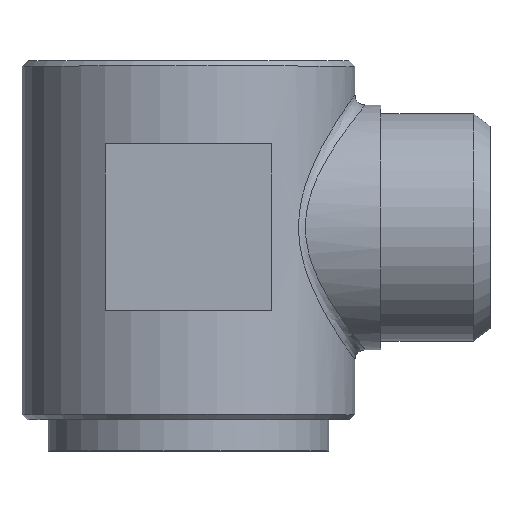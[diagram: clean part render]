
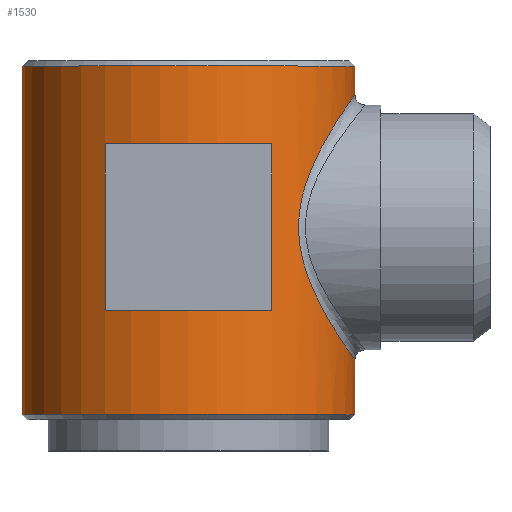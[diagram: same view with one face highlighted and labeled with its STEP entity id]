
A CAD part, top view. The second image highlights one B-rep face of the part: STEP entity #1530.
In plain terms, the highlighted cylindrical face has radius 16 mm (diameter 32 mm), a partial arc.
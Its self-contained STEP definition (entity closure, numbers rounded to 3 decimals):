
#277=CARTESIAN_POINT('',(-16.0,16.25,0.));
#278=VERTEX_POINT('',#277);
#294=CARTESIAN_POINT('',(16.0,16.25,0.0));
#295=VERTEX_POINT('',#294);
#359=CARTESIAN_POINT('',(16.0,-17.25,0.));
#360=VERTEX_POINT('',#359);
#361=CARTESIAN_POINT('',(16.0,-12.0,0.));
#362=VERTEX_POINT('',#361);
#363=CARTESIAN_POINT('',(16.0,-17.25,0.));
#364=DIRECTION('',(0.0,1.0,0.0));
#365=VECTOR('',#364,5.25);
#366=LINE('',#363,#365);
#367=EDGE_CURVE('',#360,#362,#366,.T.);
#369=CARTESIAN_POINT('',(-16.0,-17.25,0.0));
#370=VERTEX_POINT('',#369);
#378=CARTESIAN_POINT('',(-16.0,16.25,0.));
#379=DIRECTION('',(0.0,-1.0,0.0));
#380=VECTOR('',#379,33.5);
#381=LINE('',#378,#380);
#382=EDGE_CURVE('',#278,#370,#381,.T.);
#385=CARTESIAN_POINT('',(16.0,13.5,0.));
#386=VERTEX_POINT('',#385);
#387=CARTESIAN_POINT('',(16.0,13.5,0.));
#388=DIRECTION('',(0.0,1.0,0.0));
#389=VECTOR('',#388,2.75);
#390=LINE('',#387,#389);
#391=EDGE_CURVE('',#386,#295,#390,.T.);
#1421=CARTESIAN_POINT('',(0.0,-17.25,0.0));
#1422=DIRECTION('',(0.0,-1.0,0.0));
#1423=DIRECTION('',(1.0,0.0,0.0));
#1424=AXIS2_PLACEMENT_3D('',#1421,#1422,#1423);
#1425=CIRCLE('',#1424,16.0);
#1426=EDGE_CURVE('',#360,#370,#1425,.T.);
#1439=CARTESIAN_POINT('',(0.0,-17.75,0.0));
#1440=DIRECTION('',(0.0,1.0,0.0));
#1441=DIRECTION('',(1.0,0.0,0.0));
#1442=AXIS2_PLACEMENT_3D('',#1439,#1440,#1441);
#1443=CYLINDRICAL_SURFACE('',#1442,16.0);
#1444=ORIENTED_EDGE('',*,*,#367,.T.);
#1445=CARTESIAN_POINT('',(16.0,-12.0,0.));
#1446=CARTESIAN_POINT('',(16.0,-12.0,2.151));
#1447=CARTESIAN_POINT('',(15.531,-11.353,4.29));
#1448=CARTESIAN_POINT('',(13.944,-8.943,8.174));
#1449=CARTESIAN_POINT('',(12.715,-7.029,9.815));
#1450=CARTESIAN_POINT('',(11.185,-3.296,11.472));
#1451=CARTESIAN_POINT('',(10.728,-1.732,11.871));
#1452=CARTESIAN_POINT('',(10.497,1.543,12.076));
#1453=CARTESIAN_POINT('',(10.751,3.209,11.867));
#1454=CARTESIAN_POINT('',(11.81,6.601,10.826));
#1455=CARTESIAN_POINT('',(12.685,8.258,9.865));
#1456=CARTESIAN_POINT('',(14.44,11.266,7.116));
#1457=CARTESIAN_POINT('',(15.318,12.523,5.153));
#1458=CARTESIAN_POINT('',(15.907,13.37,1.968));
#1459=CARTESIAN_POINT('',(16.0,13.5,0.981));
#1460=CARTESIAN_POINT('',(16.0,13.5,0.));
#1461=B_SPLINE_CURVE_WITH_KNOTS('',3,(#1445,#1446,#1447,#1448,#1449,#1450,#1451,#1452,#1453,#1454,#1455,#1456,#1457,#1458,#1459,#1460),.UNSPECIFIED.,.F.,.U.,(4,2,2,2,2,2,2,4),(18.665,24.796,32.192,36.591,40.99,46.577,53.225,56.024),.UNSPECIFIED.);
#1462=EDGE_CURVE('',#386,#362,#1461,.F.);
#1463=ORIENTED_EDGE('',*,*,#1462,.F.);
#1464=ORIENTED_EDGE('',*,*,#391,.T.);
#1465=CARTESIAN_POINT('',(0.0,16.25,0.0));
#1466=DIRECTION('',(0.0,1.0,0.0));
#1467=DIRECTION('',(-1.0,0.0,0.0));
#1468=AXIS2_PLACEMENT_3D('',#1465,#1466,#1467);
#1469=CIRCLE('',#1468,16.0);
#1470=EDGE_CURVE('',#278,#295,#1469,.T.);
#1471=ORIENTED_EDGE('',*,*,#1470,.F.);
#1472=ORIENTED_EDGE('',*,*,#382,.T.);
#1473=ORIENTED_EDGE('',*,*,#1426,.F.);
#1474=EDGE_LOOP('',(#1444,#1463,#1464,#1471,#1472,#1473));
#1475=FACE_OUTER_BOUND('',#1474,.T.);
#1476=CARTESIAN_POINT('',(-8.0,-7.25,13.856));
#1477=VERTEX_POINT('',#1476);
#1478=CARTESIAN_POINT('',(-8.0,8.75,13.856));
#1479=VERTEX_POINT('',#1478);
#1480=CARTESIAN_POINT('',(-8.0,-7.25,13.856));
#1481=DIRECTION('',(0.0,1.0,0.0));
#1482=VECTOR('',#1481,16.0);
#1483=LINE('',#1480,#1482);
#1484=EDGE_CURVE('',#1477,#1479,#1483,.T.);
#1485=ORIENTED_EDGE('',*,*,#1484,.T.);
#1486=CARTESIAN_POINT('',(0.0,8.75,16.0));
#1487=VERTEX_POINT('',#1486);
#1488=CARTESIAN_POINT('',(0.0,8.75,0.0));
#1489=DIRECTION('',(0.0,1.0,0.0));
#1490=DIRECTION('',(1.0,0.0,0.0));
#1491=AXIS2_PLACEMENT_3D('',#1488,#1489,#1490);
#1492=CIRCLE('',#1491,16.0);
#1493=EDGE_CURVE('',#1479,#1487,#1492,.T.);
#1494=ORIENTED_EDGE('',*,*,#1493,.T.);
#1495=CARTESIAN_POINT('',(8.,8.75,13.856));
#1496=VERTEX_POINT('',#1495);
#1497=CARTESIAN_POINT('',(0.0,8.75,0.0));
#1498=DIRECTION('',(0.0,1.0,0.0));
#1499=DIRECTION('',(1.0,0.0,0.0));
#1500=AXIS2_PLACEMENT_3D('',#1497,#1498,#1499);
#1501=CIRCLE('',#1500,16.0);
#1502=EDGE_CURVE('',#1487,#1496,#1501,.T.);
#1503=ORIENTED_EDGE('',*,*,#1502,.T.);
#1504=CARTESIAN_POINT('',(8.,-7.25,13.856));
#1505=VERTEX_POINT('',#1504);
#1506=CARTESIAN_POINT('',(8.,8.75,13.856));
#1507=DIRECTION('',(0.0,-1.0,0.0));
#1508=VECTOR('',#1507,16.);
#1509=LINE('',#1506,#1508);
#1510=EDGE_CURVE('',#1496,#1505,#1509,.T.);
#1511=ORIENTED_EDGE('',*,*,#1510,.T.);
#1512=CARTESIAN_POINT('',(0.0,-7.25,16.0));
#1513=VERTEX_POINT('',#1512);
#1514=CARTESIAN_POINT('',(0.0,-7.25,0.0));
#1515=DIRECTION('',(0.0,-1.0,0.0));
#1516=DIRECTION('',(1.0,0.0,0.0));
#1517=AXIS2_PLACEMENT_3D('',#1514,#1515,#1516);
#1518=CIRCLE('',#1517,16.0);
#1519=EDGE_CURVE('',#1505,#1513,#1518,.T.);
#1520=ORIENTED_EDGE('',*,*,#1519,.T.);
#1521=CARTESIAN_POINT('',(0.0,-7.25,0.0));
#1522=DIRECTION('',(0.0,-1.0,0.0));
#1523=DIRECTION('',(1.0,0.0,0.0));
#1524=AXIS2_PLACEMENT_3D('',#1521,#1522,#1523);
#1525=CIRCLE('',#1524,16.0);
#1526=EDGE_CURVE('',#1513,#1477,#1525,.T.);
#1527=ORIENTED_EDGE('',*,*,#1526,.T.);
#1528=EDGE_LOOP('',(#1485,#1494,#1503,#1511,#1520,#1527));
#1529=FACE_BOUND('',#1528,.T.);
#1530=ADVANCED_FACE('',(#1475,#1529),#1443,.T.);
